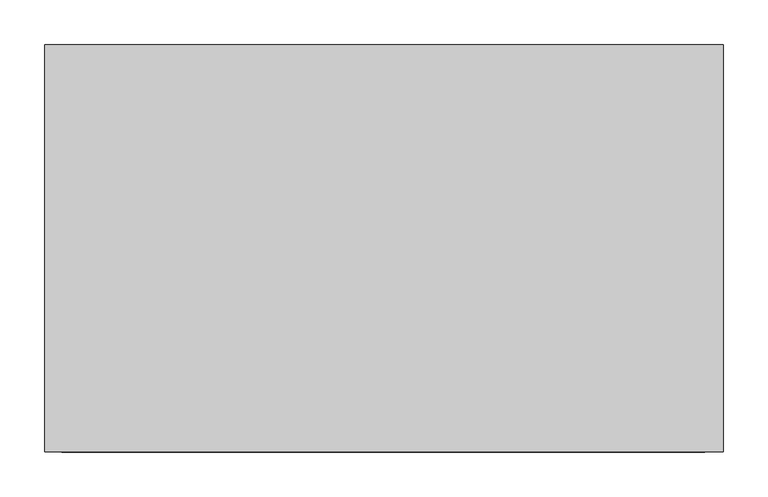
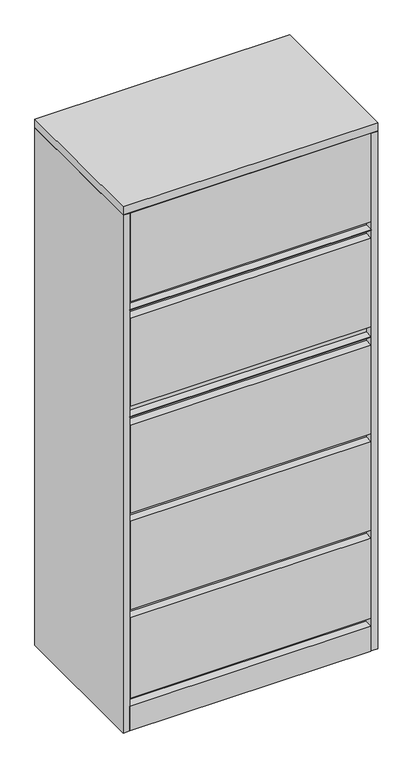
"""IFC4 building model written with IfcOpenShell, lengths in millimetres: furniture geometry, Steelcase - 900 Series - Storage - Lateral File With Posting Shelf - Flush Steel : Five 12H Lift Up Door - 30W."""

from ifc_helpers import new_model, si_unit, frame, origin, origin_with_axes, place, context, project, spatial, polyline, outline, extrude, faceted_brep, source, transform, mapped, element, save


def furniture_a3a03ea3(model_context):
    return source(origin(), model_context, "Body", "SolidModel", [
        extrude(outline(polyline([(741.1722015, -25.2721219), (741.1722015, -431.800255), (19.3039998, -431.800255), (19.3039998, -25.2721219), (741.1722015, -25.2721219)])), frame((0.0, 0.0, 357.124), z_axis=(0.0, 0.0, 1.0), x_axis=(1.0, 0.0, 0.0)), (0.0, 0.0, 1.0), 25.4508),
        extrude(outline(polyline([(741.1722015, -25.2721219), (741.1722015, -431.800255), (19.3039998, -431.800255), (19.3039998, -25.2721219), (741.1722015, -25.2721219)])), frame((0.0, 0.0, 661.8732), z_axis=(0.0, 0.0, 1.0), x_axis=(1.0, 0.0, 0.0)), (0.0, 0.0, 1.0), 25.4508),
        extrude(outline(polyline([(741.1722015, -25.2721219), (741.1722015, -431.800255), (19.3039998, -431.800255), (19.3039998, -25.2721219), (741.1722015, -25.2721219)])), frame((0.0, 0.0, 966.6732), z_axis=(0.0, 0.0, 1.0), x_axis=(1.0, 0.0, 0.0)), (0.0, 0.0, 1.0), 25.4508),
        extrude(outline(polyline([(741.1722015, -25.2721219), (741.1722015, -431.800255), (19.3039998, -431.800255), (19.3039998, -25.2721219), (741.1722015, -25.2721219)])), frame((0.0, 0.0, 1304.9377), z_axis=(0.0, 0.0, 1.0), x_axis=(1.0, 0.0, 0.0)), (0.0, 0.0, 1.0), 25.4508),
        extrude(outline(polyline([(741.1722015, -25.2721219), (741.1722015, -431.800255), (19.3039998, -431.800255), (19.3039998, -25.2721219), (741.1722015, -25.2721219)])), frame((0.0, 0.0, 993.7115), z_axis=(0.0, 0.0, 1.0), x_axis=(1.0, 0.0, 0.0)), (0.0, 0.0, 1.0), 31.877),
        extrude(outline(polyline([(741.1722015, -25.2721219), (741.1722015, -431.800255), (19.3039998, -431.800255), (19.3039998, -25.2721219), (741.1722015, -25.2721219)])), frame((0.0, 0.0, 1331.976), z_axis=(0.0, 0.0, 1.0), x_axis=(1.0, 0.0, 0.0)), (0.0, 0.0, 1.0), 25.4508),
        extrude(outline(polyline([(-430.275847, 77.9779983), (-430.275847, 103.3780013), (-25.2721219, 103.3780013), (-25.2721219, 0.0), (-457.2, 0.0), (-457.2, 77.9779983), (-430.275847, 77.9779983)])), frame((19.3039998, 0.0, 0.0), z_axis=(1.0, 0.0, 0.0), x_axis=(0.0, 1.0, 0.0)), (0.0, 0.0, 1.0), 721.8682018),
        faceted_brep([(762.0, 0.0, 1663.7), (0.0, 0.0, 1663.7), (0.0, -457.2, 1663.7), (762.0, -457.2, 1663.7), (762.0, 0.0, 1638.2999516), (762.0, -457.2, 1638.2999516), (0.0, -457.2, 1638.2999516), (0.0, 0.0, 1638.2999516), (742.6960184, -25.2721219, 1638.2999516), (20.8289612, -25.2721219, 1638.2999516), (20.8289612, -415.9241219, 1638.2999516), (742.6960184, -415.9241219, 1638.2999516), (742.6960184, -25.2721219, 1636.776), (742.6960184, -415.9241219, 1636.776), (20.8289612, -415.9241219, 1636.776), (20.8289612, -25.2721219, 1636.776)], [[[0, 1, 2, 3]], [[4, 5, 6, 7], [8, 9, 10, 11]], [[1, 0, 4, 7]], [[2, 1, 7, 6]], [[3, 2, 6, 5]], [[0, 3, 5, 4]], [[12, 13, 14, 15]], [[12, 15, 9, 8]], [[15, 14, 10, 9]], [[14, 13, 11, 10]], [[13, 12, 8, 11]]]),
        extrude(outline(polyline([(741.1722015, -457.2), (20.8289612, -457.2), (20.8289612, -431.800255), (741.1722015, -431.800255), (741.1722015, -457.2)])), frame((0.0, 0.0, 103.3780013), z_axis=(0.0, 0.0, 1.0), x_axis=(1.0, 0.0, 0.0)), (0.0, 0.0, 1.0), 253.7459987),
        extrude(outline(polyline([(741.1722015, -457.2), (20.8289612, -457.2), (20.8289612, -431.800255), (741.1722015, -431.800255), (741.1722015, -457.2)])), frame((0.0, 0.0, 382.5748), z_axis=(0.0, 0.0, 1.0), x_axis=(1.0, 0.0, 0.0)), (0.0, 0.0, 1.0), 279.3492),
        extrude(outline(polyline([(741.1722015, -457.2), (20.8289612, -457.2), (20.8289612, -431.800255), (741.1722015, -431.800255), (741.1722015, -457.2)])), frame((0.0, 0.0, 687.324), z_axis=(0.0, 0.0, 1.0), x_axis=(1.0, 0.0, 0.0)), (0.0, 0.0, 1.0), 279.4),
        extrude(outline(polyline([(741.1722015, -457.2), (20.8289612, -457.2), (20.8289612, -431.800255), (741.1722015, -431.800255), (741.1722015, -457.2)])), frame((0.0, 0.0, 1025.5885), z_axis=(0.0, 0.0, 1.0), x_axis=(1.0, 0.0, 0.0)), (0.0, 0.0, 1.0), 279.4),
        extrude(outline(polyline([(741.1722015, -457.2), (20.8289612, -457.2), (20.8289612, -431.800255), (741.1722015, -431.800255), (741.1722015, -457.2)])), frame((0.0, 0.0, 1357.376), z_axis=(0.0, 0.0, 1.0), x_axis=(1.0, 0.0, 0.0)), (0.0, 0.0, 1.0), 279.2286248),
        extrude(outline(polyline([(741.1722015, -457.2), (19.3039998, -457.2), (19.3039998, -431.800255), (741.1722015, -431.800255), (741.1722015, -457.2)])), frame((0.0, 0.0, 992.124), z_axis=(0.0, 0.0, 1.0), x_axis=(1.0, 0.0, 0.0)), (0.0, 0.0, 1.0), 1.5875),
        extrude(outline(polyline([(742.6960184, -457.2), (19.3039998, -457.2), (19.3039998, -431.800255), (742.6960184, -431.800255), (742.6960184, -457.2)])), frame((0.0, 0.0, 1330.3885), z_axis=(0.0, 0.0, 1.0), x_axis=(1.0, 0.0, 0.0)), (0.0, 0.0, 1.0), 1.5875),
        extrude(outline(polyline([(742.6960184, -25.2721219), (19.3039998, -25.2721219), (19.3039998, -457.2), (0.0, -457.2), (0.0, 0.0), (762.0, 0.0), (762.0, -457.2), (742.6960184, -457.2), (742.6960184, -25.2721219)])), origin_with_axes(), (0.0, 0.0, 1.0), 1636.776),
    ])


if __name__ == "__main__":
    model = new_model("IFC4")
    model_context = context("Model", 3, world=origin())
    ifc_project = project(units=[si_unit("LENGTHUNIT", "METRE", prefix="MILLI")], contexts=[model_context])
    site = spatial("IfcSite", under=ifc_project)
    building = spatial("IfcBuilding", under=site)
    placement = place(None, origin())
    furniture_shape = furniture_a3a03ea3(model_context)
    element("IfcFurniture", 1, ObjectType="Steelcase - 900 Series - Storage - Lateral File With Posting Shelf - Flush Steel : Five 12H Lift Up Door - 30W", at=placement, inside=building, context=model_context, shape_type="MappedRepresentation", body=[
        mapped(furniture_shape, transform((0.0, 0.0, 0.0), x_axis=(1.0, 0.0, 0.0), y_axis=(0.0, 1.0, 0.0), z_axis=(0.0, 0.0, 1.0))),
    ])
    save(model, "model.ifc")
